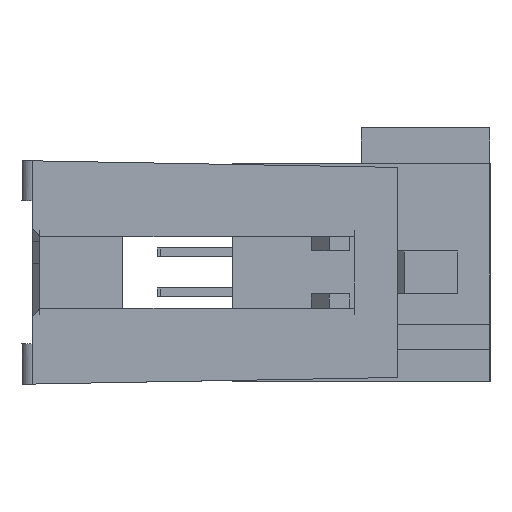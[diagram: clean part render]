
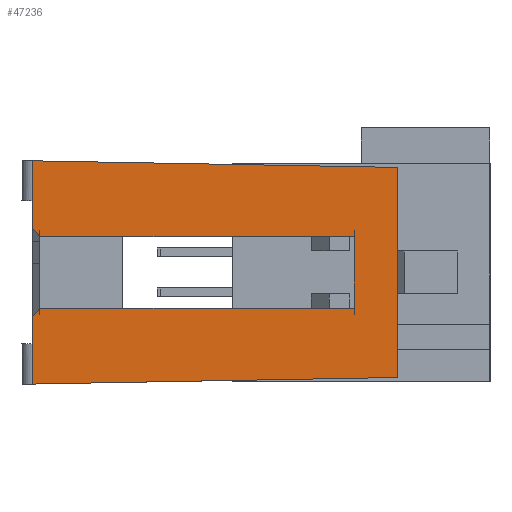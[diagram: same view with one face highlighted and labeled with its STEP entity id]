
A CAD part, left-side view. The second image highlights one B-rep face of the part: STEP entity #47236.
In plain terms, the highlighted planar face has unit normal (-1, 0, 0).
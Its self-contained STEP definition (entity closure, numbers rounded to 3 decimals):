
#15525=DIRECTION('',(0.,0.,1.));
#15526=VECTOR('',#15525,2.);
#15527=CARTESIAN_POINT('',(-40.4,3.8,-1.));
#15528=LINE('',#15527,#15526);
#15529=DIRECTION('',(0.,-1.,0.));
#15530=VECTOR('',#15529,8.8);
#15531=CARTESIAN_POINT('',(-40.4,12.6,1.));
#15532=LINE('',#15531,#15530);
#15533=DIRECTION('',(0.,0.,1.));
#15534=VECTOR('',#15533,1.89);
#15535=CARTESIAN_POINT('',(-40.4,12.8,1.234));
#15536=LINE('',#15535,#15534);
#15537=DIRECTION('',(0.,-1.,-0.018));
#15538=VECTOR('',#15537,10.202);
#15539=CARTESIAN_POINT('',(-40.4,12.8,3.125));
#15540=LINE('',#15539,#15538);
#15541=DIRECTION('',(0.,0.,-1.));
#15542=VECTOR('',#15541,5.88);
#15543=CARTESIAN_POINT('',(-40.4,2.6,2.94));
#15544=LINE('',#15543,#15542);
#15545=DIRECTION('',(0.,1.,-0.018));
#15546=VECTOR('',#15545,10.202);
#15547=CARTESIAN_POINT('',(-40.4,2.6,-2.94));
#15548=LINE('',#15547,#15546);
#15549=DIRECTION('',(0.,0.,1.));
#15550=VECTOR('',#15549,1.89);
#15551=CARTESIAN_POINT('',(-40.4,12.8,-3.125));
#15552=LINE('',#15551,#15550);
#15553=DIRECTION('',(0.,-1.,0.));
#15554=VECTOR('',#15553,8.8);
#15555=CARTESIAN_POINT('',(-40.4,12.6,-1.));
#15556=LINE('',#15555,#15554);
#15561=DIRECTION('',(0.,-0.649,-0.761));
#15562=VECTOR('',#15561,0.308);
#15563=CARTESIAN_POINT('',(-40.4,12.8,1.234));
#15564=LINE('',#15563,#15562);
#16817=DIRECTION('',(0.,-0.649,0.761));
#16818=VECTOR('',#16817,0.308);
#16819=CARTESIAN_POINT('',(-40.4,12.8,-1.234));
#16820=LINE('',#16819,#16818);
#17817=CARTESIAN_POINT('',(-40.4,12.8,3.125));
#17818=CARTESIAN_POINT('',(-40.4,2.6,2.94));
#17819=VERTEX_POINT('',#17817);
#17820=VERTEX_POINT('',#17818);
#17821=CARTESIAN_POINT('',(-40.4,2.6,-2.94));
#17822=VERTEX_POINT('',#17821);
#17823=CARTESIAN_POINT('',(-40.4,12.8,-3.125));
#17824=VERTEX_POINT('',#17823);
#17905=CARTESIAN_POINT('',(-40.4,3.8,-1.));
#17906=CARTESIAN_POINT('',(-40.4,3.8,1.));
#17907=VERTEX_POINT('',#17905);
#17908=VERTEX_POINT('',#17906);
#17958=CARTESIAN_POINT('',(-40.4,12.8,-1.234));
#17960=VERTEX_POINT('',#17958);
#17962=CARTESIAN_POINT('',(-40.4,12.6,-1.));
#17964=VERTEX_POINT('',#17962);
#17977=CARTESIAN_POINT('',(-40.4,12.8,1.234));
#17978=VERTEX_POINT('',#17977);
#17979=CARTESIAN_POINT('',(-40.4,12.6,1.));
#17980=VERTEX_POINT('',#17979);
#47214=CARTESIAN_POINT('',(-40.4,0.,0.));
#47215=DIRECTION('',(1.,0.,0.));
#47216=DIRECTION('',(0.,0.,-1.));
#47217=AXIS2_PLACEMENT_3D('',#47214,#47215,#47216);
#47218=PLANE('',#47217);
#47219=ORIENTED_EDGE('',*,*,#47101,.T.);
#47221=ORIENTED_EDGE('',*,*,#47220,.F.);
#47223=ORIENTED_EDGE('',*,*,#47222,.F.);
#47224=ORIENTED_EDGE('',*,*,#46399,.T.);
#47225=ORIENTED_EDGE('',*,*,#47190,.T.);
#47226=ORIENTED_EDGE('',*,*,#46192,.T.);
#47228=ORIENTED_EDGE('',*,*,#47227,.T.);
#47229=ORIENTED_EDGE('',*,*,#46410,.T.);
#47231=ORIENTED_EDGE('',*,*,#47230,.T.);
#47233=ORIENTED_EDGE('',*,*,#47232,.T.);
#47234=EDGE_LOOP('',(#47219,#47221,#47223,#47224,#47225,#47226,#47228,#47229,
#47231,#47233));
#47235=FACE_OUTER_BOUND('',#47234,.F.);
#47236=ADVANCED_FACE('',(#47235),#47218,.F.);
#46192=EDGE_CURVE('',#17820,#17822,#15544,.T.);
#46399=EDGE_CURVE('',#17978,#17819,#15536,.T.);
#46410=EDGE_CURVE('',#17824,#17960,#15552,.T.);
#47101=EDGE_CURVE('',#17907,#17908,#15528,.T.);
#47190=EDGE_CURVE('',#17819,#17820,#15540,.T.);
#47220=EDGE_CURVE('',#17980,#17908,#15532,.T.);
#47222=EDGE_CURVE('',#17978,#17980,#15564,.T.);
#47227=EDGE_CURVE('',#17822,#17824,#15548,.T.);
#47230=EDGE_CURVE('',#17960,#17964,#16820,.T.);
#47232=EDGE_CURVE('',#17964,#17907,#15556,.T.);
